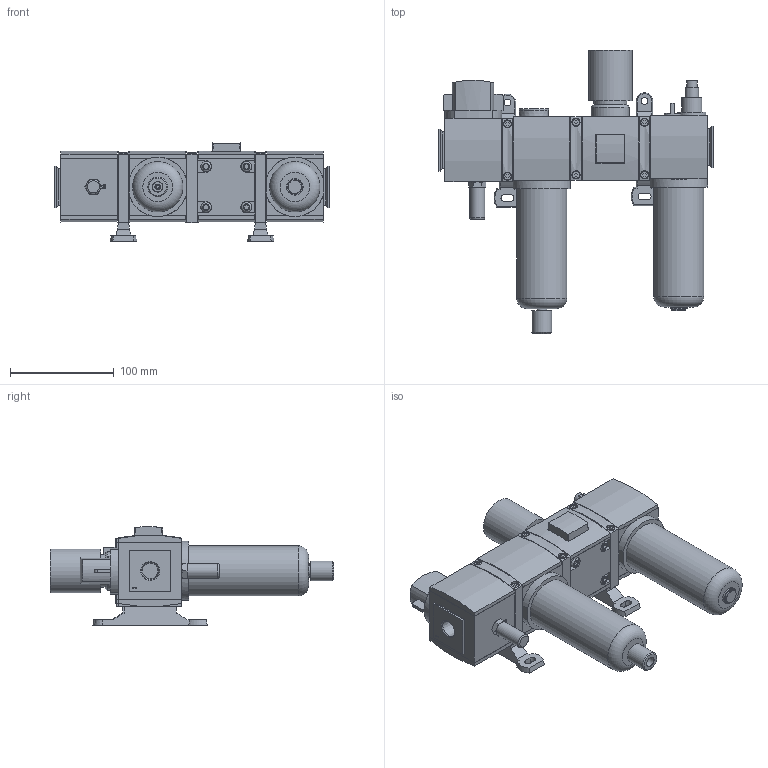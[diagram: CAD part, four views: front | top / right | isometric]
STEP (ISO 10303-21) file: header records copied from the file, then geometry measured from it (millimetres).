
FILE_DESCRIPTION( ( 'STEP AP214' ), '1' );
FILE_NAME( 'p:/temp/worker_265/temp/exporttempdir_5156_708_1LR4V/format_0/07062020-200219_gen_15306.stp', '2020-02-07T19:06:21', ( '' ), ( '' ), ' ', 'PARTsolutions', ' ' );
FILE_SCHEMA( ( 'AUTOMOTIVE_DESIGN { 1 0 10303 214 1 1 1 1 }' ) );
Length unit declared in the file: millimetre
Products named in the file (20): 07062020-200219_gen_15306; _433433014-F--0-A00129L; _433441-002-SV-0; _437742-001-100; _M2MN_652; _G652ASLA0B00A00_LS; _431787-002-F-A00PJBN1; _440511-008-P; _440512-002-N; _433441-001-R-0; _439851-002; _G652ASLA0A00A00_LS; _437794-002-F-HGL; _433441-001-R-H; _438047-009; _433879-001; _433894-001; _440508-001-STANDARD; _433456-014-F-KA00; _440512-001_plug
Assembly tree (26 placements, depth 2):
  07062020-200219_gen_15306
    _433433014-F--0-A00129L
    _433441-002-SV-0  x4
    _437742-001-100
    _M2MN_652
    _G652ASLA0B00A00_LS  x2
    _431787-002-F-A00PJBN1
    _440511-008-P  x2
    _440512-002-N
    _433441-001-R-0  x3
    _439851-002
    _G652ASLA0A00A00_LS
    _437794-002-F-HGL
    _433441-001-R-H
    _438047-009
    _433879-001
    _433894-001
    _440508-001-STANDARD
    _433456-014-F-KA00
    _440512-001_plug
Bounding box: 264 x 272.52 x 94.91 mm (x, y, z)
Volume: 1686475.7 mm3; surface area: 293964.2 mm2
Topology: 26 solids, 26 shells, 965 faces, 2304 edges, 1495 vertices
Faces by surface type: plane 761, cylinder 122, cone 67, torus 14, sphere 1
Full cylindrical faces by diameter (mm): 2.8 x2, 3 x2, 5 x1, 5.6 x8, 6.3 x8, 6.5 x2, 7 x6, 7.8 x6, 8.25 x4, 9.728 x2, 10 x9, 13 x1, 13.5 x1, 14.224 x1, 15.1 x1, 15.875 x1, 16 x1, 19 x1, 19.2 x1, 19.4 x1, 27 x1, 28.5 x1, 31.6 x1, 37 x1, 41.845 x1, 48.5 x2
Entity records: 32085 total; most frequent: CARTESIAN_POINT 4825, DIRECTION 4015, ORIENTED_EDGE 3912, EDGE_CURVE 1956, LINE 1595, VECTOR 1595, VERTEX_POINT 1340, AXIS2_PLACEMENT_3D 1210
